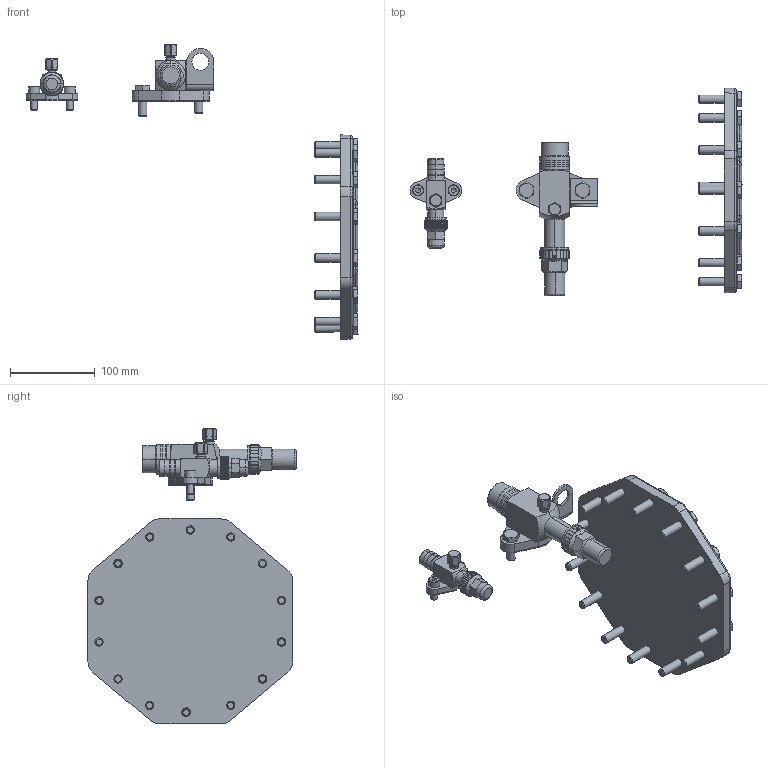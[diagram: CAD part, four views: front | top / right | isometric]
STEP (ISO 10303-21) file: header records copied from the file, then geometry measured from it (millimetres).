
FILE_DESCRIPTION(/* description */ (''),/* implementation_level */ '2;1');
FILE_NAME(/* name */ '4EES.stp',/* time_stamp */ '2023-10-24T11:55:07+02:00',/* author */ (''),/* organization */ (''),/* preprocessor_version */ 'ST-DEVELOPER v19.3',/* originating_system */ 'SIEMENS PLM Software NX2212.3001',/* authorisation */ '');
FILE_SCHEMA (('AUTOMOTIVE_DESIGN { 1 0 10303 214 3 1 1 1 }'));
Length unit declared in the file: millimetre
Products named in the file (4): SHUT-OFF-VALVE-COMPL-D28L; SHUT-OFF-VALVE-COMPL-D16L; HOUSING-COVER-2EC-4DC; 4EES
Assembly tree (3 placements, depth 2):
  4EES
    HOUSING-COVER-2EC-4DC
    SHUT-OFF-VALVE-COMPL-D16L
    SHUT-OFF-VALVE-COMPL-D28L
Bounding box: 391.29 x 245.24 x 347.9 mm (x, y, z)
Volume: 1144936.3 mm3; surface area: 182680.1 mm2
Topology: 3 solids, 3 shells, 1095 faces, 2776 edges, 1760 vertices
Faces by surface type: plane 593, cylinder 234, cone 208, torus 36, bspline 16, sphere 8
Full cylindrical faces by diameter (mm): 7.794 x2, 9 x2, 9.76 x14, 10 x2, 11 x2, 13 x2, 20 x2, 27 x1, 34.5 x1
Entity records: 38209 total; most frequent: CARTESIAN_POINT 6697, DIRECTION 5301, ORIENTED_EDGE 5298, EDGE_CURVE 2649, AXIS2_PLACEMENT_3D 1924, VERTEX_POINT 1726, LINE 1453, VECTOR 1453
